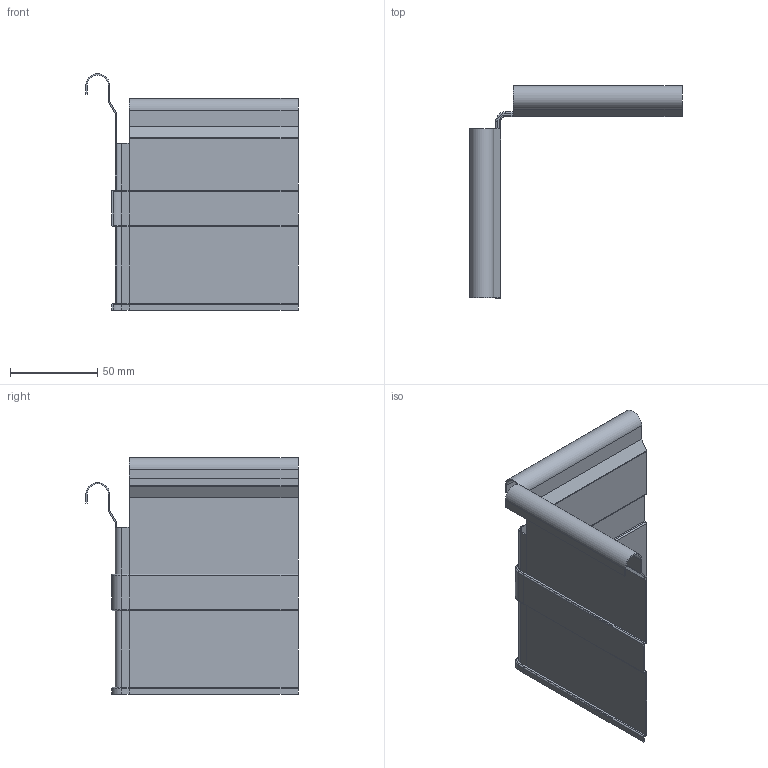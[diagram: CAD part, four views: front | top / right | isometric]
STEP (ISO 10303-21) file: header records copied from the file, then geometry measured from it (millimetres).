
FILE_DESCRIPTION (( 'STEP AP214' ), '1' );
FILE_NAME ('12521.17_Smart Board Classic.STEP', '2010-09-16T12:36:23', ( 'grass' ), ( '' ), 'SwSTEP 2.0', 'SolidWorks 2010', '' );
FILE_SCHEMA (( 'AUTOMOTIVE_DESIGN' ));
Length unit declared in the file: millimetre
Products named in the file (1): 12521.17_Smart Board Classic
Bounding box: 121.8 x 121.8 x 135.8 mm (x, y, z)
Volume: 24938.2 mm3; surface area: 63331.5 mm2
Topology: 3 solids, 3 shells, 192 faces, 402 edges, 216 vertices
Faces by surface type: plane 146, cylinder 40, torus 6
Entity records: 4936 total; most frequent: DIRECTION 874, CARTESIAN_POINT 811, ORIENTED_EDGE 804, EDGE_CURVE 402, VECTOR 316, LINE 316, AXIS2_PLACEMENT_3D 279, VERTEX_POINT 216
